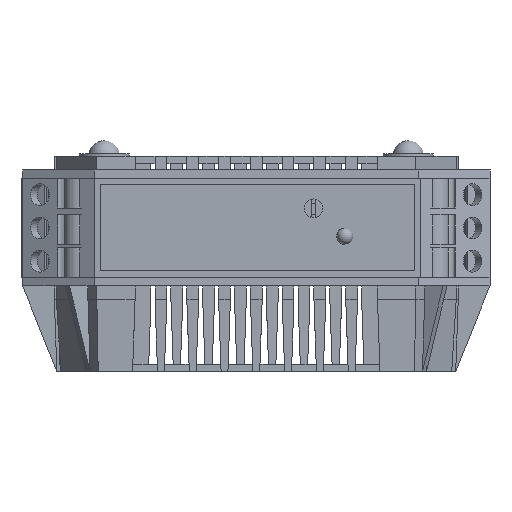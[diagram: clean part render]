
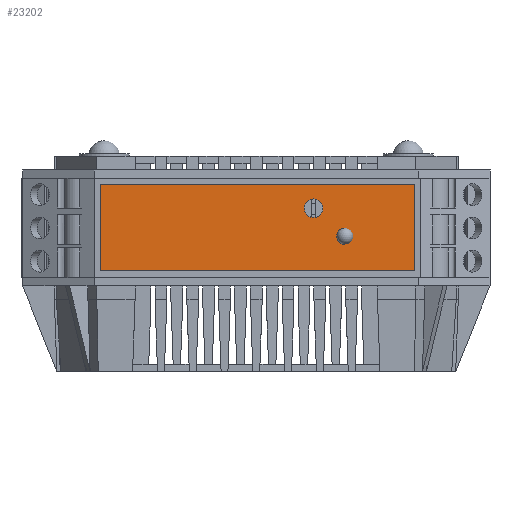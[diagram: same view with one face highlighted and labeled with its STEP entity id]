
A CAD part, front view. The second image highlights one B-rep face of the part: STEP entity #23202.
In plain terms, the highlighted planar face has unit normal (0.005, -1, 0).
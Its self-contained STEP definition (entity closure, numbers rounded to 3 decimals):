
#378=FACE_BOUND('',#3194,.T.);
#1150=PLANE('',#24387);
#2127=FACE_OUTER_BOUND('',#3193,.T.);
#3193=EDGE_LOOP('',(#20390,#20391,#20392,#20393));
#3194=EDGE_LOOP('',(#20394));
#5680=LINE('',#38218,#8725);
#5952=LINE('',#39603,#8997);
#5953=LINE('',#39606,#8998);
#5954=LINE('',#39607,#8999);
#8725=VECTOR('',#28198,10.);
#8997=VECTOR('',#28732,10.);
#8998=VECTOR('',#28735,10.);
#8999=VECTOR('',#28736,10.);
#9791=CIRCLE('',#24384,1.5);
#11337=VERTEX_POINT('',#38215);
#11338=VERTEX_POINT('',#38217);
#11567=VERTEX_POINT('',#39593);
#11570=VERTEX_POINT('',#39601);
#11571=VERTEX_POINT('',#39605);
#14340=EDGE_CURVE('',#11337,#11338,#5680,.T.);
#14668=EDGE_CURVE('',#11567,#11567,#9791,.T.);
#14673=EDGE_CURVE('',#11570,#11337,#5952,.T.);
#14674=EDGE_CURVE('',#11571,#11570,#5953,.T.);
#14675=EDGE_CURVE('',#11338,#11571,#5954,.T.);
#20390=ORIENTED_EDGE('',*,*,#14673,.F.);
#20391=ORIENTED_EDGE('',*,*,#14674,.F.);
#20392=ORIENTED_EDGE('',*,*,#14675,.F.);
#20393=ORIENTED_EDGE('',*,*,#14340,.F.);
#20394=ORIENTED_EDGE('',*,*,#14668,.T.);
#23202=ADVANCED_FACE('',(#2127,#378),#1150,.F.);
#24384=AXIS2_PLACEMENT_3D('',#39594,#28723,#28724);
#24387=AXIS2_PLACEMENT_3D('',#39604,#28733,#28734);
#28198=DIRECTION('',(-1.,-0.005,0.));
#28723=DIRECTION('center_axis',(-0.005,1.,0.));
#28724=DIRECTION('ref_axis',(1.,0.005,0.));
#28732=DIRECTION('',(0.,0.,-1.));
#28733=DIRECTION('center_axis',(-0.005,1.,0.));
#28734=DIRECTION('ref_axis',(0.,0.,1.));
#28735=DIRECTION('',(1.,0.005,0.));
#28736=DIRECTION('',(0.,0.,1.));
#38215=CARTESIAN_POINT('',(25.407,-43.754,-9.524));
#38217=CARTESIAN_POINT('',(-25.005,-43.995,-9.524));
#38218=CARTESIAN_POINT('',(25.407,-43.754,-9.524));
#39593=CARTESIAN_POINT('',(7.701,-43.839,0.5));
#39594=CARTESIAN_POINT('Origin',(9.201,-43.832,0.5));
#39601=CARTESIAN_POINT('',(25.407,-43.754,4.333));
#39603=CARTESIAN_POINT('',(25.407,-43.754,4.333));
#39604=CARTESIAN_POINT('Origin',(0.201,-43.875,-2.596));
#39605=CARTESIAN_POINT('',(-25.005,-43.995,4.333));
#39606=CARTESIAN_POINT('',(-25.005,-43.995,4.333));
#39607=CARTESIAN_POINT('',(-25.005,-43.995,-9.524));
